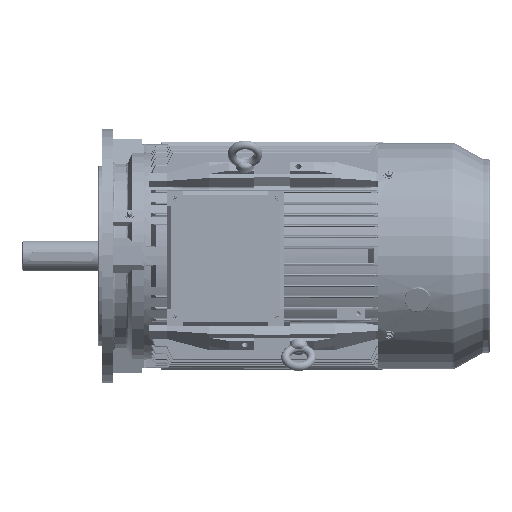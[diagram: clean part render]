
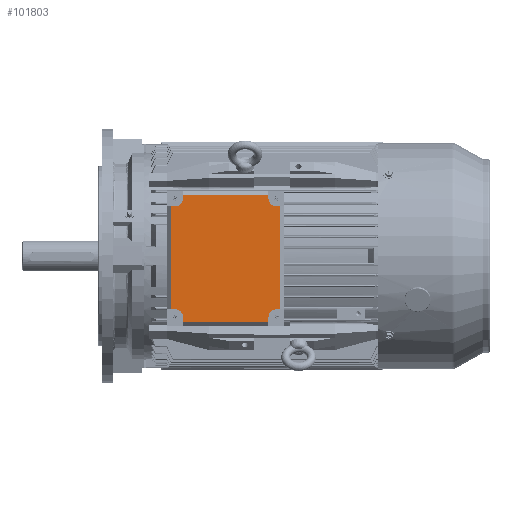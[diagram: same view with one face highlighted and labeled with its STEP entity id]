
A CAD part, top view. The second image highlights one B-rep face of the part: STEP entity #101803.
In plain terms, the highlighted planar face has unit normal (0, 0, 1).
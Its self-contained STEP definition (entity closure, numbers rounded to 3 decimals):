
#5678 = DIRECTION ( 'NONE',  ( -1., 0., 0. ) ) ;
#5679 = DIRECTION ( 'NONE',  ( 0., 0., 1. ) ) ;
#5680 = CARTESIAN_POINT ( 'NONE',  ( 81.5, 70., 12. ) ) ;
#5681 = AXIS2_PLACEMENT_3D ( 'NONE', #5680, #5679, #5678 ) ;
#5682 = CIRCLE ( 'NONE', #5681, 11. ) ;
#5701 = CARTESIAN_POINT ( 'NONE',  ( -71.5, -70., 12. ) ) ;
#5707 = DIRECTION ( 'NONE',  ( 0., -1., 0. ) ) ;
#5708 = VECTOR ( 'NONE', #5707, 1000. ) ;
#5709 = CARTESIAN_POINT ( 'NONE',  ( -87.5, -59., 12. ) ) ;
#5710 = LINE ( 'NONE', #5709, #5708 ) ;
#5711 = CARTESIAN_POINT ( 'NONE',  ( -87.5, 59., 12. ) ) ;
#5712 = DIRECTION ( 'NONE',  ( 1., 0., 0. ) ) ;
#5713 = VECTOR ( 'NONE', #5712, 1000. ) ;
#5714 = CARTESIAN_POINT ( 'NONE',  ( -93.5, 59., 12. ) ) ;
#5715 = LINE ( 'NONE', #5714, #5713 ) ;
#5727 = CARTESIAN_POINT ( 'NONE',  ( 81.5, 59., 12. ) ) ;
#5728 = DIRECTION ( 'NONE',  ( 1., 0., 0. ) ) ;
#5729 = VECTOR ( 'NONE', #5728, 1000. ) ;
#5730 = CARTESIAN_POINT ( 'NONE',  ( 93.5, 59., 12. ) ) ;
#5731 = LINE ( 'NONE', #5730, #5729 ) ;
#5738 = CARTESIAN_POINT ( 'NONE',  ( 87.5, 59., 12. ) ) ;
#5739 = DIRECTION ( 'NONE',  ( 0., 1., 0. ) ) ;
#5740 = VECTOR ( 'NONE', #5739, 1000. ) ;
#5741 = CARTESIAN_POINT ( 'NONE',  ( 87.5, 59., 12. ) ) ;
#5742 = LINE ( 'NONE', #5741, #5740 ) ;
#5743 = CARTESIAN_POINT ( 'NONE',  ( 87.5, -59., 12. ) ) ;
#5744 = DIRECTION ( 'NONE',  ( 1., 0., 0. ) ) ;
#5745 = DIRECTION ( 'NONE',  ( 0., 0., 1. ) ) ;
#5746 = CARTESIAN_POINT ( 'NONE',  ( -93.5, -81., 12. ) ) ;
#5747 = AXIS2_PLACEMENT_3D ( 'NONE', #5746, #5745, #5744 ) ;
#5748 = FACE_OUTER_BOUND ( 'NONE', #101805, .T. ) ;
#5754 = PLANE ( 'NONE',  #5747 ) ;
#5755 = CARTESIAN_POINT ( 'NONE',  ( -71.5, 75., 12. ) ) ;
#5756 = DIRECTION ( 'NONE',  ( -1., 0., 0. ) ) ;
#5757 = VECTOR ( 'NONE', #5756, 1000. ) ;
#5758 = CARTESIAN_POINT ( 'NONE',  ( -71.5, 75., 12. ) ) ;
#5759 = LINE ( 'NONE', #5758, #5757 ) ;
#5766 = CARTESIAN_POINT ( 'NONE',  ( 70.5, 70., 12. ) ) ;
#5767 = CARTESIAN_POINT ( 'NONE',  ( 70.5, 75., 12. ) ) ;
#5809 = DIRECTION ( 'NONE',  ( 0., 1., 0. ) ) ;
#5810 = VECTOR ( 'NONE', #5809, 1000. ) ;
#5811 = CARTESIAN_POINT ( 'NONE',  ( -71.5, 81., 12. ) ) ;
#5812 = LINE ( 'NONE', #5811, #5810 ) ;
#5817 = CARTESIAN_POINT ( 'NONE',  ( -71.5, -75., 12. ) ) ;
#5824 = DIRECTION ( 'NONE',  ( 0., 1., 0. ) ) ;
#5825 = VECTOR ( 'NONE', #5824, 1000. ) ;
#5826 = CARTESIAN_POINT ( 'NONE',  ( -71.5, -81., 12. ) ) ;
#5827 = LINE ( 'NONE', #5826, #5825 ) ;
#5828 = CARTESIAN_POINT ( 'NONE',  ( -82.5, -59., 12. ) ) ;
#5829 = DIRECTION ( 'NONE',  ( -1., 0., 0. ) ) ;
#5830 = VECTOR ( 'NONE', #5829, 1000. ) ;
#5831 = CARTESIAN_POINT ( 'NONE',  ( -93.5, -59., 12. ) ) ;
#5832 = LINE ( 'NONE', #5831, #5830 ) ;
#5833 = CARTESIAN_POINT ( 'NONE',  ( -87.5, -59., 12. ) ) ;
#5848 = CARTESIAN_POINT ( 'NONE',  ( 81.5, -59., 12. ) ) ;
#5849 = DIRECTION ( 'NONE',  ( 1., 0., 0. ) ) ;
#5850 = DIRECTION ( 'NONE',  ( 0., 0., 1. ) ) ;
#5851 = CARTESIAN_POINT ( 'NONE',  ( 81.5, -70., 12. ) ) ;
#5852 = AXIS2_PLACEMENT_3D ( 'NONE', #5851, #5850, #5849 ) ;
#5856 = CIRCLE ( 'NONE', #5852, 11. ) ;
#5860 = CARTESIAN_POINT ( 'NONE',  ( 70.5, -70., 12. ) ) ;
#5861 = DIRECTION ( 'NONE',  ( 0., -1., 0. ) ) ;
#5862 = VECTOR ( 'NONE', #5861, 1000. ) ;
#5863 = CARTESIAN_POINT ( 'NONE',  ( 70.5, -81., 12. ) ) ;
#5864 = LINE ( 'NONE', #5863, #5862 ) ;
#5869 = CARTESIAN_POINT ( 'NONE',  ( -82.5, 59., 12. ) ) ;
#5870 = DIRECTION ( 'NONE',  ( 1., 0., 0. ) ) ;
#5871 = DIRECTION ( 'NONE',  ( 0., 0., 1. ) ) ;
#5872 = CARTESIAN_POINT ( 'NONE',  ( -82.5, 70., 12. ) ) ;
#5873 = AXIS2_PLACEMENT_3D ( 'NONE', #5872, #5871, #5870 ) ;
#5874 = CIRCLE ( 'NONE', #5873, 11. ) ;
#5875 = CARTESIAN_POINT ( 'NONE',  ( -71.5, 70., 12. ) ) ;
#5876 = CARTESIAN_POINT ( 'NONE',  ( 70.5, -75., 12. ) ) ;
#5877 = DIRECTION ( 'NONE',  ( 1., 0., 0. ) ) ;
#5878 = VECTOR ( 'NONE', #5877, 1000. ) ;
#5879 = CARTESIAN_POINT ( 'NONE',  ( 70.5, -75., 12. ) ) ;
#5880 = LINE ( 'NONE', #5879, #5878 ) ;
#5892 = DIRECTION ( 'NONE',  ( 0., -1., 0. ) ) ;
#5893 = VECTOR ( 'NONE', #5892, 1000. ) ;
#5894 = CARTESIAN_POINT ( 'NONE',  ( 70.5, 81., 12. ) ) ;
#5895 = LINE ( 'NONE', #5894, #5893 ) ;
#5901 = DIRECTION ( 'NONE',  ( -1., 0., 0. ) ) ;
#5902 = VECTOR ( 'NONE', #5901, 1000. ) ;
#5903 = CARTESIAN_POINT ( 'NONE',  ( 93.5, -59., 12. ) ) ;
#5904 = LINE ( 'NONE', #5903, #5902 ) ;
#5953 = DIRECTION ( 'NONE',  ( -1., 0., 0. ) ) ;
#5954 = DIRECTION ( 'NONE',  ( 0., 0., 1. ) ) ;
#5955 = CARTESIAN_POINT ( 'NONE',  ( -82.5, -70., 12. ) ) ;
#5956 = AXIS2_PLACEMENT_3D ( 'NONE', #5955, #5954, #5953 ) ;
#5957 = CIRCLE ( 'NONE', #5956, 11. ) ;
#101741 = EDGE_CURVE ( 'NONE', #101846, #101827, #5682, .T. ) ;
#101763 = ORIENTED_EDGE ( 'NONE', *, *, #101766, .F. ) ;
#101766 = EDGE_CURVE ( 'NONE', #101771, #101948, #5715, .T. ) ;
#101771 = VERTEX_POINT ( 'NONE', #5711 ) ;
#101774 = ORIENTED_EDGE ( 'NONE', *, *, #101775, .T. ) ;
#101775 = EDGE_CURVE ( 'NONE', #101771, #101906, #5710, .T. ) ;
#101780 = ORIENTED_EDGE ( 'NONE', *, *, #102054, .F. ) ;
#101784 = VERTEX_POINT ( 'NONE', #5701 ) ;
#101803 = ADVANCED_FACE ( 'NONE', ( #5748 ), #5754, .T. ) ;
#101805 = EDGE_LOOP ( 'NONE', ( #101990, #101850, #101859, #101943, #101763, #101774, #101908, #101780, #102057, #101927, #101951, #101964, #101974, #101809, #101821, #101830 ) ) ;
#101807 = VERTEX_POINT ( 'NONE', #5743 ) ;
#101809 = ORIENTED_EDGE ( 'NONE', *, *, #101811, .T. ) ;
#101811 = EDGE_CURVE ( 'NONE', #101807, #101814, #5742, .T. ) ;
#101814 = VERTEX_POINT ( 'NONE', #5738 ) ;
#101821 = ORIENTED_EDGE ( 'NONE', *, *, #101822, .F. ) ;
#101822 = EDGE_CURVE ( 'NONE', #101827, #101814, #5731, .T. ) ;
#101827 = VERTEX_POINT ( 'NONE', #5727 ) ;
#101830 = ORIENTED_EDGE ( 'NONE', *, *, #101741, .F. ) ;
#101844 = VERTEX_POINT ( 'NONE', #5767 ) ;
#101846 = VERTEX_POINT ( 'NONE', #5766 ) ;
#101850 = ORIENTED_EDGE ( 'NONE', *, *, #101854, .T. ) ;
#101854 = EDGE_CURVE ( 'NONE', #101844, #101856, #5759, .T. ) ;
#101856 = VERTEX_POINT ( 'NONE', #5755 ) ;
#101859 = ORIENTED_EDGE ( 'NONE', *, *, #101862, .F. ) ;
#101862 = EDGE_CURVE ( 'NONE', #101936, #101856, #5812, .T. ) ;
#101906 = VERTEX_POINT ( 'NONE', #5833 ) ;
#101908 = ORIENTED_EDGE ( 'NONE', *, *, #101913, .F. ) ;
#101913 = EDGE_CURVE ( 'NONE', #101916, #101906, #5832, .T. ) ;
#101916 = VERTEX_POINT ( 'NONE', #5828 ) ;
#101919 = EDGE_CURVE ( 'NONE', #101925, #101784, #5827, .T. ) ;
#101925 = VERTEX_POINT ( 'NONE', #5817 ) ;
#101927 = ORIENTED_EDGE ( 'NONE', *, *, #101932, .T. ) ;
#101932 = EDGE_CURVE ( 'NONE', #101925, #101934, #5880, .T. ) ;
#101934 = VERTEX_POINT ( 'NONE', #5876 ) ;
#101936 = VERTEX_POINT ( 'NONE', #5875 ) ;
#101943 = ORIENTED_EDGE ( 'NONE', *, *, #101947, .F. ) ;
#101947 = EDGE_CURVE ( 'NONE', #101948, #101936, #5874, .T. ) ;
#101948 = VERTEX_POINT ( 'NONE', #5869 ) ;
#101951 = ORIENTED_EDGE ( 'NONE', *, *, #101955, .F. ) ;
#101955 = EDGE_CURVE ( 'NONE', #101957, #101934, #5864, .T. ) ;
#101957 = VERTEX_POINT ( 'NONE', #5860 ) ;
#101964 = ORIENTED_EDGE ( 'NONE', *, *, #101966, .F. ) ;
#101966 = EDGE_CURVE ( 'NONE', #101968, #101957, #5856, .T. ) ;
#101968 = VERTEX_POINT ( 'NONE', #5848 ) ;
#101974 = ORIENTED_EDGE ( 'NONE', *, *, #101975, .F. ) ;
#101975 = EDGE_CURVE ( 'NONE', #101807, #101968, #5904, .T. ) ;
#101990 = ORIENTED_EDGE ( 'NONE', *, *, #101992, .F. ) ;
#101992 = EDGE_CURVE ( 'NONE', #101844, #101846, #5895, .T. ) ;
#102054 = EDGE_CURVE ( 'NONE', #101784, #101916, #5957, .T. ) ;
#102057 = ORIENTED_EDGE ( 'NONE', *, *, #101919, .F. ) ;
